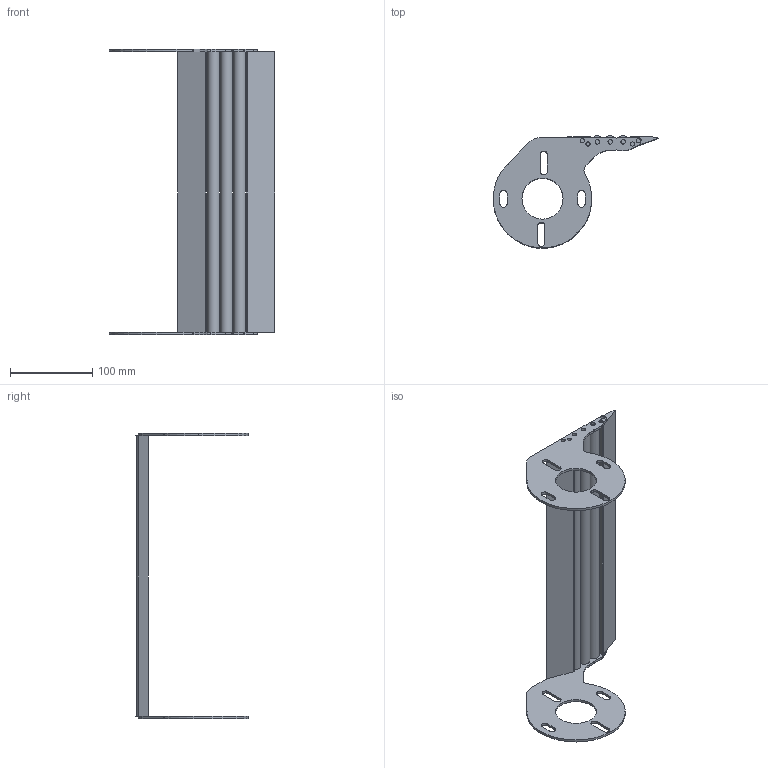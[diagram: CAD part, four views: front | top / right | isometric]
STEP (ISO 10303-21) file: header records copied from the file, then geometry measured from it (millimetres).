
FILE_DESCRIPTION (( 'STEP AP214' ), '1' );
FILE_NAME ('F2 1200 TG2R.step', '2017-04-05T06:47:56', ( '' ), ( '' ), 'SwSTEP 2.0', 'SolidWorks 2015', '' );
FILE_SCHEMA (( 'AUTOMOTIVE_DESIGN' ));
Length unit declared in the file: millimetre
Products named in the file (1): F2 1200 TG2R
Bounding box: 201.6 x 136.54 x 348 mm (x, y, z)
Volume: 435714.5 mm3; surface area: 157102.3 mm2
Topology: 1 solids, 1 shells, 157 faces, 427 edges, 278 vertices
Faces by surface type: plane 84, cylinder 73
Entity records: 6598 total; most frequent: DIRECTION 901, CARTESIAN_POINT 863, ORIENTED_EDGE 854, EDGE_CURVE 427, AXIS2_PLACEMENT_3D 316, VERTEX_POINT 278, LINE 269, VECTOR 269
